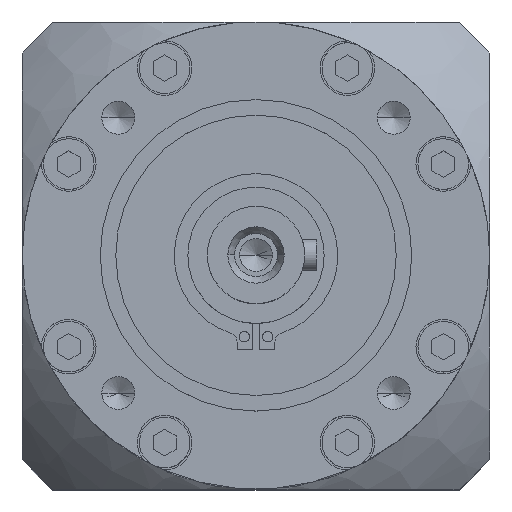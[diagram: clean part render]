
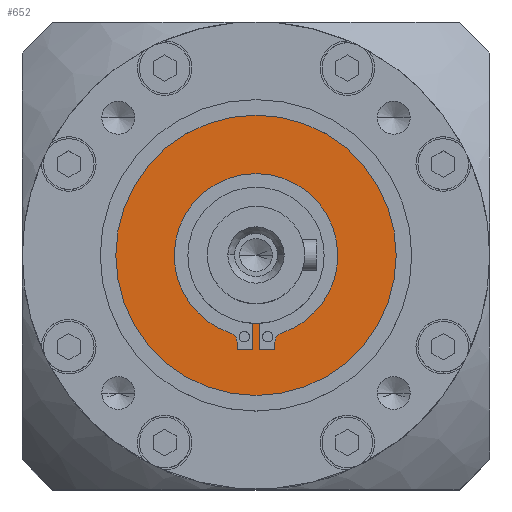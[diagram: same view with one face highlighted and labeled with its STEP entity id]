
A CAD part, top view. The second image highlights one B-rep face of the part: STEP entity #652.
In plain terms, the highlighted planar face has unit normal (0, 0, 1).
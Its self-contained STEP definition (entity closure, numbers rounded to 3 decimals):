
#58 = CIRCLE ( 'NONE', #6947, 2.5 ) ;
#152 = AXIS2_PLACEMENT_3D ( 'NONE', #9310, #23109, #11299 ) ;
#271 = VERTEX_POINT ( 'NONE', #9179 ) ;
#319 = ORIENTED_EDGE ( 'NONE', *, *, #4696, .F. ) ;
#385 = FACE_OUTER_BOUND ( 'NONE', #16408, .T. ) ;
#441 = CIRCLE ( 'NONE', #24214, 0.5 ) ;
#479 = DIRECTION ( 'NONE',  ( 0., -1., 0. ) ) ;
#652 = ADVANCED_FACE ( 'NONE', ( #385, #25201 ), #19851, .F. ) ;
#677 = DIRECTION ( 'NONE',  ( -1., 0., 0. ) ) ;
#1043 = ORIENTED_EDGE ( 'NONE', *, *, #17960, .T. ) ;
#1112 = DIRECTION ( 'NONE',  ( 0., 0., 1. ) ) ;
#1186 = EDGE_CURVE ( 'NONE', #9809, #23903, #1563, .T. ) ;
#1283 = CARTESIAN_POINT ( 'NONE',  ( 4.35, -24.279, -4. ) ) ;
#1562 = ORIENTED_EDGE ( 'NONE', *, *, #24169, .F. ) ;
#1563 = CIRCLE ( 'NONE', #12962, 36. ) ;
#1784 = CARTESIAN_POINT ( 'NONE',  ( -4.85, -22.321, -4. ) ) ;
#2016 = CARTESIAN_POINT ( 'NONE',  ( 0.85, -24.279, -4. ) ) ;
#2034 = CARTESIAN_POINT ( 'NONE',  ( 0.85, -24.279, -4. ) ) ;
#2250 = LINE ( 'NONE', #2034, #16550 ) ;
#2405 = ORIENTED_EDGE ( 'NONE', *, *, #23973, .F. ) ;
#2871 = CIRCLE ( 'NONE', #23801, 21. ) ;
#2979 = VERTEX_POINT ( 'NONE', #10623 ) ;
#3476 = DIRECTION ( 'NONE',  ( 0., 0., 1. ) ) ;
#3641 = DIRECTION ( 'NONE',  ( 0., 0., 1. ) ) ;
#3810 = CARTESIAN_POINT ( 'NONE',  ( 4.85, -22.321, -4. ) ) ;
#3868 = EDGE_CURVE ( 'NONE', #19284, #2979, #5576, .T. ) ;
#3919 = DIRECTION ( 'NONE',  ( 0., 1., 0. ) ) ;
#3929 = DIRECTION ( 'NONE',  ( 1., 0., 0. ) ) ;
#4206 = CARTESIAN_POINT ( 'NONE',  ( 0., 0., -4. ) ) ;
#4500 = VECTOR ( 'NONE', #23446, 1000. ) ;
#4571 = VERTEX_POINT ( 'NONE', #1784 ) ;
#4605 = EDGE_LOOP ( 'NONE', ( #2405, #16864, #1562, #19717, #22040, #11402, #9188, #5477, #24907, #13126, #12135, #319, #16365, #14604 ) ) ;
#4684 = CARTESIAN_POINT ( 'NONE',  ( -36., 0., -4. ) ) ;
#4696 = EDGE_CURVE ( 'NONE', #19102, #23674, #2250, .T. ) ;
#4803 = VECTOR ( 'NONE', #11027, 1000. ) ;
#4879 = EDGE_CURVE ( 'NONE', #20271, #20539, #19300, .T. ) ;
#4962 = EDGE_CURVE ( 'NONE', #20539, #19102, #23385, .T. ) ;
#5022 = CARTESIAN_POINT ( 'NONE',  ( 21., 0., -4. ) ) ;
#5096 = VERTEX_POINT ( 'NONE', #25354 ) ;
#5131 = CARTESIAN_POINT ( 'NONE',  ( -4.85, -23.779, -4. ) ) ;
#5408 = AXIS2_PLACEMENT_3D ( 'NONE', #15292, #3641, #17249 ) ;
#5429 = EDGE_CURVE ( 'NONE', #23674, #16118, #441, .T. ) ;
#5477 = ORIENTED_EDGE ( 'NONE', *, *, #23158, .F. ) ;
#5576 = CIRCLE ( 'NONE', #8333, 2.5 ) ;
#5691 = LINE ( 'NONE', #15599, #16693 ) ;
#6320 = CIRCLE ( 'NONE', #152, 21. ) ;
#6611 = AXIS2_PLACEMENT_3D ( 'NONE', #10568, #22540, #8584 ) ;
#6947 = AXIS2_PLACEMENT_3D ( 'NONE', #8800, #22581, #10795 ) ;
#8027 = EDGE_CURVE ( 'NONE', #16118, #19284, #18258, .T. ) ;
#8333 = AXIS2_PLACEMENT_3D ( 'NONE', #22976, #17038, #21025 ) ;
#8398 = CARTESIAN_POINT ( 'NONE',  ( -0.85, -24.279, -4. ) ) ;
#8584 = DIRECTION ( 'NONE',  ( -1., 0., 0. ) ) ;
#8800 = CARTESIAN_POINT ( 'NONE',  ( -7.35, -22.321, -4. ) ) ;
#9049 = CIRCLE ( 'NONE', #21826, 0.5 ) ;
#9118 = DIRECTION ( 'NONE',  ( 0., 0., 1. ) ) ;
#9179 = CARTESIAN_POINT ( 'NONE',  ( -6.568, -19.946, -4. ) ) ;
#9188 = ORIENTED_EDGE ( 'NONE', *, *, #13790, .F. ) ;
#9310 = CARTESIAN_POINT ( 'NONE',  ( 0., 0., -4. ) ) ;
#9323 = CARTESIAN_POINT ( 'NONE',  ( 4.85, -23.779, -4. ) ) ;
#9504 = VERTEX_POINT ( 'NONE', #25189 ) ;
#9738 = AXIS2_PLACEMENT_3D ( 'NONE', #15118, #3476, #17091 ) ;
#9809 = VERTEX_POINT ( 'NONE', #4684 ) ;
#9968 = LINE ( 'NONE', #5131, #4803 ) ;
#10301 = LINE ( 'NONE', #21410, #4500 ) ;
#10349 = DIRECTION ( 'NONE',  ( 0., 0., 1. ) ) ;
#10568 = CARTESIAN_POINT ( 'NONE',  ( 0., 0., -4. ) ) ;
#10623 = CARTESIAN_POINT ( 'NONE',  ( 6.568, -19.946, -4. ) ) ;
#10795 = DIRECTION ( 'NONE',  ( -1., 0., 0. ) ) ;
#11027 = DIRECTION ( 'NONE',  ( 0., -1., 0. ) ) ;
#11100 = DIRECTION ( 'NONE',  ( -1., 0., 0. ) ) ;
#11299 = DIRECTION ( 'NONE',  ( -1., 0., 0. ) ) ;
#11402 = ORIENTED_EDGE ( 'NONE', *, *, #14618, .F. ) ;
#11440 = CARTESIAN_POINT ( 'NONE',  ( 36., 0., -4. ) ) ;
#12070 = DIRECTION ( 'NONE',  ( 0., 0., -1. ) ) ;
#12135 = ORIENTED_EDGE ( 'NONE', *, *, #5429, .F. ) ;
#12274 = DIRECTION ( 'NONE',  ( 0., 0., 1. ) ) ;
#12712 = CARTESIAN_POINT ( 'NONE',  ( 0., 0., -4. ) ) ;
#12962 = AXIS2_PLACEMENT_3D ( 'NONE', #19105, #9118, #11100 ) ;
#13034 = CARTESIAN_POINT ( 'NONE',  ( 0.85, -24.279, -4. ) ) ;
#13074 = VECTOR ( 'NONE', #14292, 1000. ) ;
#13126 = ORIENTED_EDGE ( 'NONE', *, *, #8027, .F. ) ;
#13277 = CARTESIAN_POINT ( 'NONE',  ( 0.85, -17.479, -4. ) ) ;
#13786 = AXIS2_PLACEMENT_3D ( 'NONE', #4206, #12070, #479 ) ;
#13790 = EDGE_CURVE ( 'NONE', #14678, #9504, #13816, .T. ) ;
#13816 = CIRCLE ( 'NONE', #9738, 21. ) ;
#14292 = DIRECTION ( 'NONE',  ( 0., 1., 0. ) ) ;
#14604 = ORIENTED_EDGE ( 'NONE', *, *, #4879, .F. ) ;
#14618 = EDGE_CURVE ( 'NONE', #9504, #271, #2871, .T. ) ;
#14649 = DIRECTION ( 'NONE',  ( -1., 0., 0. ) ) ;
#14678 = VERTEX_POINT ( 'NONE', #5022 ) ;
#15118 = CARTESIAN_POINT ( 'NONE',  ( 0., 0., -4. ) ) ;
#15258 = VERTEX_POINT ( 'NONE', #25268 ) ;
#15292 = CARTESIAN_POINT ( 'NONE',  ( 0., 0., -4. ) ) ;
#15363 = ORIENTED_EDGE ( 'NONE', *, *, #1186, .T. ) ;
#15599 = CARTESIAN_POINT ( 'NONE',  ( -0.85, -24.279, -4. ) ) ;
#15855 = VERTEX_POINT ( 'NONE', #8398 ) ;
#16118 = VERTEX_POINT ( 'NONE', #9323 ) ;
#16151 = CARTESIAN_POINT ( 'NONE',  ( 4.35, -23.779, -4. ) ) ;
#16365 = ORIENTED_EDGE ( 'NONE', *, *, #4962, .F. ) ;
#16408 = EDGE_LOOP ( 'NONE', ( #1043, #15363 ) ) ;
#16550 = VECTOR ( 'NONE', #3929, 1000. ) ;
#16693 = VECTOR ( 'NONE', #3919, 1000. ) ;
#16864 = ORIENTED_EDGE ( 'NONE', *, *, #23307, .F. ) ;
#17038 = DIRECTION ( 'NONE',  ( 0., 0., -1. ) ) ;
#17091 = DIRECTION ( 'NONE',  ( -1., 0., 0. ) ) ;
#17249 = DIRECTION ( 'NONE',  ( -1., 0., 0. ) ) ;
#17960 = EDGE_CURVE ( 'NONE', #23903, #9809, #18490, .T. ) ;
#18050 = VECTOR ( 'NONE', #22254, 1000. ) ;
#18258 = LINE ( 'NONE', #20332, #13074 ) ;
#18490 = CIRCLE ( 'NONE', #5408, 36. ) ;
#19102 = VERTEX_POINT ( 'NONE', #13034 ) ;
#19105 = CARTESIAN_POINT ( 'NONE',  ( 0., 0., -4. ) ) ;
#19284 = VERTEX_POINT ( 'NONE', #3810 ) ;
#19300 = CIRCLE ( 'NONE', #6611, 17.5 ) ;
#19717 = ORIENTED_EDGE ( 'NONE', *, *, #23665, .F. ) ;
#19851 = PLANE ( 'NONE',  #13786 ) ;
#20271 = VERTEX_POINT ( 'NONE', #24202 ) ;
#20332 = CARTESIAN_POINT ( 'NONE',  ( 4.85, -23.779, -4. ) ) ;
#20539 = VERTEX_POINT ( 'NONE', #13277 ) ;
#21025 = DIRECTION ( 'NONE',  ( 1., 0., 0. ) ) ;
#21410 = CARTESIAN_POINT ( 'NONE',  ( -0.85, -24.279, -4. ) ) ;
#21826 = AXIS2_PLACEMENT_3D ( 'NONE', #24118, #12274, #677 ) ;
#21891 = EDGE_CURVE ( 'NONE', #271, #4571, #58, .T. ) ;
#22040 = ORIENTED_EDGE ( 'NONE', *, *, #21891, .F. ) ;
#22136 = DIRECTION ( 'NONE',  ( 1., 0., 0. ) ) ;
#22254 = DIRECTION ( 'NONE',  ( 0., -1., 0. ) ) ;
#22540 = DIRECTION ( 'NONE',  ( 0., 0., 1. ) ) ;
#22581 = DIRECTION ( 'NONE',  ( 0., 0., -1. ) ) ;
#22976 = CARTESIAN_POINT ( 'NONE',  ( 7.35, -22.321, -4. ) ) ;
#23109 = DIRECTION ( 'NONE',  ( 0., 0., 1. ) ) ;
#23158 = EDGE_CURVE ( 'NONE', #2979, #14678, #6320, .T. ) ;
#23307 = EDGE_CURVE ( 'NONE', #15258, #15855, #10301, .T. ) ;
#23385 = LINE ( 'NONE', #2016, #18050 ) ;
#23446 = DIRECTION ( 'NONE',  ( 1., 0., 0. ) ) ;
#23665 = EDGE_CURVE ( 'NONE', #4571, #5096, #9968, .T. ) ;
#23674 = VERTEX_POINT ( 'NONE', #1283 ) ;
#23801 = AXIS2_PLACEMENT_3D ( 'NONE', #12712, #1112, #14649 ) ;
#23903 = VERTEX_POINT ( 'NONE', #11440 ) ;
#23973 = EDGE_CURVE ( 'NONE', #15855, #20271, #5691, .T. ) ;
#24118 = CARTESIAN_POINT ( 'NONE',  ( -4.35, -23.779, -4. ) ) ;
#24169 = EDGE_CURVE ( 'NONE', #5096, #15258, #9049, .T. ) ;
#24202 = CARTESIAN_POINT ( 'NONE',  ( -0.85, -17.479, -4. ) ) ;
#24214 = AXIS2_PLACEMENT_3D ( 'NONE', #16151, #10349, #22136 ) ;
#24907 = ORIENTED_EDGE ( 'NONE', *, *, #3868, .F. ) ;
#25189 = CARTESIAN_POINT ( 'NONE',  ( -21., 0., -4. ) ) ;
#25201 = FACE_BOUND ( 'NONE', #4605, .T. ) ;
#25268 = CARTESIAN_POINT ( 'NONE',  ( -4.35, -24.279, -4. ) ) ;
#25354 = CARTESIAN_POINT ( 'NONE',  ( -4.85, -23.779, -4. ) ) ;
